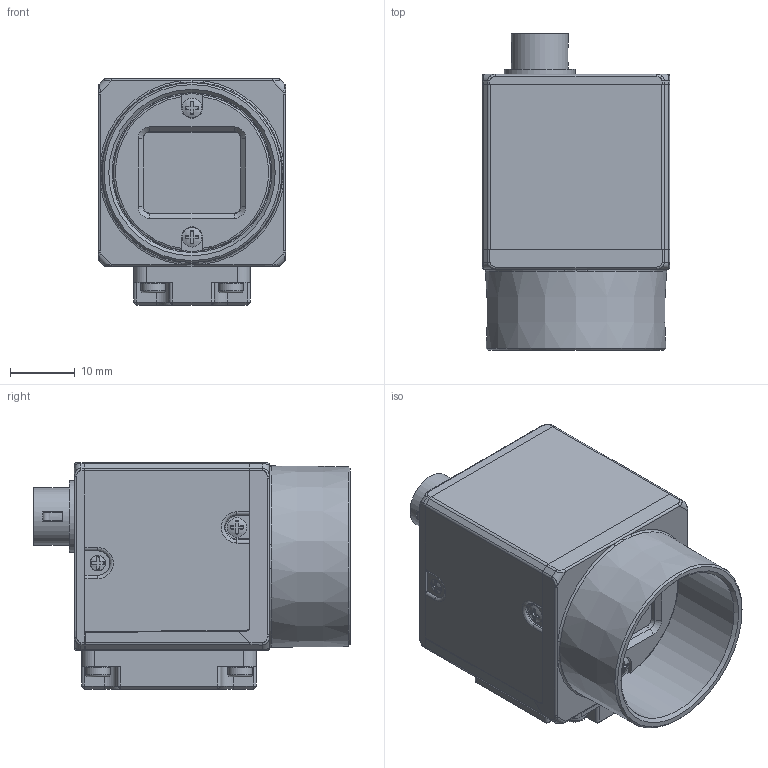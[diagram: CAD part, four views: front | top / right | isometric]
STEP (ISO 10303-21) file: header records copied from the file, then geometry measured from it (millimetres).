
FILE_DESCRIPTION(('STEP AP214'),'1');
FILE_NAME('CS_type-b(USB).stp','2024-11-01T03:21:42',(' '),(' '),'Spatial InterOp 3D',' ',' ');
FILE_SCHEMA(('AUTOMOTIVE_DESIGN { 1 0 10303 214 1 1 1 1 }'));
Length unit declared in the file: metre
Products named in the file (3): CS_type-b(USB); Component1; Component2
Assembly tree (2 placements, depth 2):
  CS_type-b(USB)
    Component1
    Component2
Bounding box: 29.03 x 48.91 x 35 mm (x, y, z)
Volume: 28434.7 mm3; surface area: 11196.3 mm2
Topology: 6 solids, 6 shells, 1490 faces, 4025 edges, 2568 vertices
Faces by surface type: plane 712, cylinder 388, cone 169, bspline 114, torus 98, sphere 6, extrusion 3
Full cylindrical faces by diameter (mm): 0.4 x6, 0.8 x2, 1.6 x6, 1.9 x4, 2.2 x4, 2.5 x3, 2.9 x2, 3 x4, 3.6 x2, 3.8 x6, 5.1 x1, 5.6 x1, 5.7 x1, 8.85 x1, 11 x1, 24.7 x1
Entity records: 85069 total; most frequent: CARTESIAN_POINT 17119, ORIENTED_EDGE 7738, DIRECTION 7548, STYLED_ITEM 5365, PRESENTATION_STYLE_ASSIGNMENT 5365, COLOUR_RGB 5365, EDGE_CURVE 3869, CURVE_STYLE 3869
